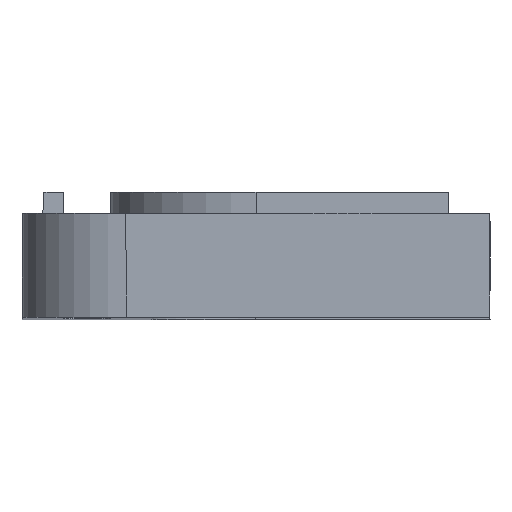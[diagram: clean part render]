
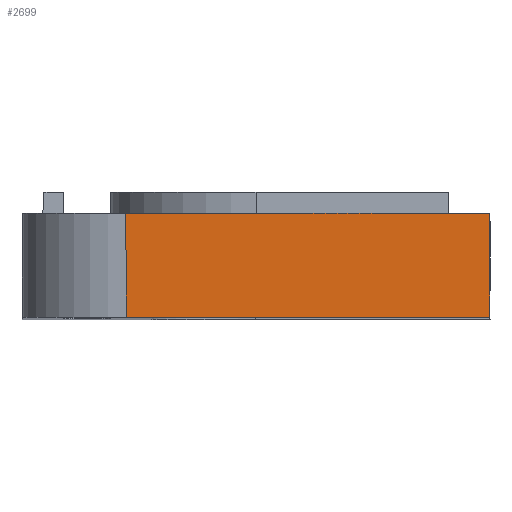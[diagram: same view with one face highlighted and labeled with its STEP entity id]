
A CAD part, top view. The second image highlights one B-rep face of the part: STEP entity #2699.
In plain terms, the highlighted planar face has unit normal (0, 0, 1).
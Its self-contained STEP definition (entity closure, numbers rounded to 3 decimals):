
#31 = ORIENTED_EDGE ( 'NONE', *, *, #1461, .T. ) ;
#219 = DIRECTION ( 'NONE',  ( 0., 1., 0. ) ) ;
#301 = LINE ( 'NONE', #3199, #567 ) ;
#427 = CARTESIAN_POINT ( 'NONE',  ( -57.5, 7.1, 70. ) ) ;
#508 = DIRECTION ( 'NONE',  ( -1., 0., 0. ) ) ;
#567 = VECTOR ( 'NONE', #219, 1000. ) ;
#731 = DIRECTION ( 'NONE',  ( 0., -1., 0. ) ) ;
#773 = VERTEX_POINT ( 'NONE', #3065 ) ;
#793 = CARTESIAN_POINT ( 'NONE',  ( -102.5, 7.1, 70. ) ) ;
#842 = CARTESIAN_POINT ( 'NONE',  ( -57.5, -2.9, 70. ) ) ;
#844 = VERTEX_POINT ( 'NONE', #842 ) ;
#886 = CARTESIAN_POINT ( 'NONE',  ( -57.5, -2.9, 70. ) ) ;
#892 = AXIS2_PLACEMENT_3D ( 'NONE', #3030, #1549, #508 ) ;
#1068 = VERTEX_POINT ( 'NONE', #427 ) ;
#1459 = EDGE_LOOP ( 'NONE', ( #2591, #31, #2461, #2337 ) ) ;
#1461 = EDGE_CURVE ( 'NONE', #844, #1068, #301, .T. ) ;
#1534 = CARTESIAN_POINT ( 'NONE',  ( -92.5, -2.9, 70. ) ) ;
#1549 = DIRECTION ( 'NONE',  ( 0., 0., -1. ) ) ;
#1627 = FACE_OUTER_BOUND ( 'NONE', #1459, .T. ) ;
#1640 = EDGE_CURVE ( 'NONE', #773, #2064, #2444, .T. ) ;
#1783 = VECTOR ( 'NONE', #2045, 1000. ) ;
#1992 = CARTESIAN_POINT ( 'NONE',  ( -92.5, -2.9, 70. ) ) ;
#2045 = DIRECTION ( 'NONE',  ( 1., 0., 0. ) ) ;
#2064 = VERTEX_POINT ( 'NONE', #1992 ) ;
#2075 = VECTOR ( 'NONE', #731, 1000. ) ;
#2337 = ORIENTED_EDGE ( 'NONE', *, *, #1640, .T. ) ;
#2444 = LINE ( 'NONE', #1534, #2075 ) ;
#2456 = EDGE_CURVE ( 'NONE', #844, #2064, #2517, .T. ) ;
#2461 = ORIENTED_EDGE ( 'NONE', *, *, #2687, .F. ) ;
#2517 = LINE ( 'NONE', #886, #3060 ) ;
#2591 = ORIENTED_EDGE ( 'NONE', *, *, #2456, .F. ) ;
#2687 = EDGE_CURVE ( 'NONE', #773, #1068, #2829, .T. ) ;
#2699 = ADVANCED_FACE ( 'NONE', ( #1627 ), #3005, .F. ) ;
#2829 = LINE ( 'NONE', #793, #1783 ) ;
#2857 = DIRECTION ( 'NONE',  ( -1., 0., 0. ) ) ;
#3005 = PLANE ( 'NONE',  #892 ) ;
#3030 = CARTESIAN_POINT ( 'NONE',  ( 0., 0., 70. ) ) ;
#3060 = VECTOR ( 'NONE', #2857, 1000. ) ;
#3065 = CARTESIAN_POINT ( 'NONE',  ( -92.5, 7.1, 70. ) ) ;
#3199 = CARTESIAN_POINT ( 'NONE',  ( -57.5, 0., 70. ) ) ;
